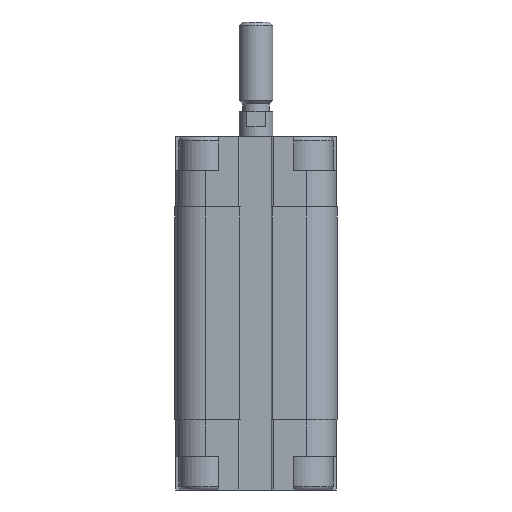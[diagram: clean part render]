
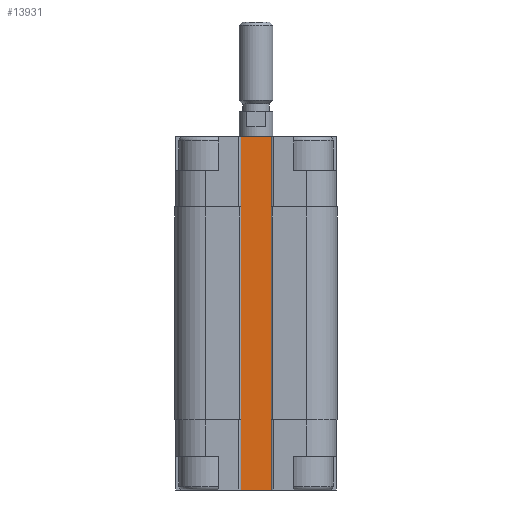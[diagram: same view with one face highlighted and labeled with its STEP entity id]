
A CAD part, front view. The second image highlights one B-rep face of the part: STEP entity #13931.
In plain terms, the highlighted planar face has unit normal (0, -1, 0).
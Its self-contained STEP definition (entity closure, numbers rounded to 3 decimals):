
#79 = VECTOR ( 'NONE', #7638, 1000. ) ;
#274 = CARTESIAN_POINT ( 'NONE',  ( -3.2, -9.5, -50.5 ) ) ;
#410 = EDGE_CURVE ( 'NONE', #4543, #4541, #4754, .T. ) ;
#640 = LINE ( 'NONE', #15147, #1665 ) ;
#839 = CARTESIAN_POINT ( 'NONE',  ( 3., -9.5, -12.5 ) ) ;
#905 = CARTESIAN_POINT ( 'NONE',  ( -3.2, -9.5, -50.5 ) ) ;
#939 = ORIENTED_EDGE ( 'NONE', *, *, #5834, .T. ) ;
#1094 = VERTEX_POINT ( 'NONE', #3147 ) ;
#1239 = CARTESIAN_POINT ( 'NONE',  ( 3., -9.5, -12.5 ) ) ;
#1414 = PLANE ( 'NONE',  #12702 ) ;
#1665 = VECTOR ( 'NONE', #7304, 1000. ) ;
#2220 = DIRECTION ( 'NONE',  ( 0., 0., 1. ) ) ;
#2603 = ORIENTED_EDGE ( 'NONE', *, *, #8197, .F. ) ;
#2644 = VERTEX_POINT ( 'NONE', #13933 ) ;
#2705 = CARTESIAN_POINT ( 'NONE',  ( -3., -9.5, -63. ) ) ;
#2902 = VERTEX_POINT ( 'NONE', #8024 ) ;
#2946 = VECTOR ( 'NONE', #10303, 1000. ) ;
#3038 = VECTOR ( 'NONE', #8574, 1000. ) ;
#3147 = CARTESIAN_POINT ( 'NONE',  ( 3., -9.5, 0. ) ) ;
#3264 = CARTESIAN_POINT ( 'NONE',  ( -3.2, -9.5, -12.5 ) ) ;
#3392 = CARTESIAN_POINT ( 'NONE',  ( -3., -9.5, 0. ) ) ;
#3422 = CARTESIAN_POINT ( 'NONE',  ( -3., -9.5, -63. ) ) ;
#3776 = EDGE_CURVE ( 'NONE', #2644, #11810, #8315, .T. ) ;
#3848 = EDGE_CURVE ( 'NONE', #13267, #1094, #14194, .T. ) ;
#3934 = CARTESIAN_POINT ( 'NONE',  ( 3.2, -9.5, -50.5 ) ) ;
#4285 = VERTEX_POINT ( 'NONE', #9883 ) ;
#4332 = EDGE_CURVE ( 'NONE', #13909, #1094, #5123, .T. ) ;
#4348 = VECTOR ( 'NONE', #14654, 1000. ) ;
#4452 = DIRECTION ( 'NONE',  ( 1., 0., 0. ) ) ;
#4541 = VERTEX_POINT ( 'NONE', #5795 ) ;
#4543 = VERTEX_POINT ( 'NONE', #13806 ) ;
#4603 = VERTEX_POINT ( 'NONE', #3422 ) ;
#4754 = LINE ( 'NONE', #3264, #13719 ) ;
#4913 = LINE ( 'NONE', #10116, #79 ) ;
#5104 = DIRECTION ( 'NONE',  ( 0., 0., 1. ) ) ;
#5123 = LINE ( 'NONE', #839, #9507 ) ;
#5437 = DIRECTION ( 'NONE',  ( -1., 0., 0. ) ) ;
#5795 = CARTESIAN_POINT ( 'NONE',  ( -3., -9.5, -12.5 ) ) ;
#5834 = EDGE_CURVE ( 'NONE', #4603, #4285, #640, .T. ) ;
#6190 = DIRECTION ( 'NONE',  ( 0., 0., 1. ) ) ;
#6479 = VERTEX_POINT ( 'NONE', #3934 ) ;
#6744 = VECTOR ( 'NONE', #6190, 1000. ) ;
#7304 = DIRECTION ( 'NONE',  ( 1., 0., 0. ) ) ;
#7322 = ORIENTED_EDGE ( 'NONE', *, *, #3776, .T. ) ;
#7471 = CARTESIAN_POINT ( 'NONE',  ( 9., -9.5, -12.5 ) ) ;
#7638 = DIRECTION ( 'NONE',  ( 0., 0., 1. ) ) ;
#7747 = EDGE_CURVE ( 'NONE', #2902, #6479, #14672, .T. ) ;
#8024 = CARTESIAN_POINT ( 'NONE',  ( 3., -9.5, -50.5 ) ) ;
#8197 = EDGE_CURVE ( 'NONE', #4603, #11810, #9570, .T. ) ;
#8315 = LINE ( 'NONE', #12467, #17215 ) ;
#8404 = EDGE_CURVE ( 'NONE', #13909, #10022, #16797, .T. ) ;
#8574 = DIRECTION ( 'NONE',  ( 1., 0., 0. ) ) ;
#8733 = ORIENTED_EDGE ( 'NONE', *, *, #7747, .T. ) ;
#9389 = CARTESIAN_POINT ( 'NONE',  ( -3., -9.5, -50.5 ) ) ;
#9426 = LINE ( 'NONE', #12075, #14137 ) ;
#9507 = VECTOR ( 'NONE', #17168, 1000. ) ;
#9512 = CARTESIAN_POINT ( 'NONE',  ( 3.2, -9.5, -12.5 ) ) ;
#9570 = LINE ( 'NONE', #2705, #4348 ) ;
#9883 = CARTESIAN_POINT ( 'NONE',  ( 3., -9.5, -63. ) ) ;
#10022 = VERTEX_POINT ( 'NONE', #9512 ) ;
#10116 = CARTESIAN_POINT ( 'NONE',  ( 3., -9.5, -63. ) ) ;
#10303 = DIRECTION ( 'NONE',  ( 1., 0., 0. ) ) ;
#10336 = CARTESIAN_POINT ( 'NONE',  ( -3., -9.5, -12.5 ) ) ;
#10510 = ORIENTED_EDGE ( 'NONE', *, *, #13841, .T. ) ;
#10644 = FACE_OUTER_BOUND ( 'NONE', #16464, .T. ) ;
#10702 = ORIENTED_EDGE ( 'NONE', *, *, #11065, .T. ) ;
#10817 = CARTESIAN_POINT ( 'NONE',  ( -3., -9.5, -12.5 ) ) ;
#10873 = ORIENTED_EDGE ( 'NONE', *, *, #3848, .F. ) ;
#11065 = EDGE_CURVE ( 'NONE', #6479, #10022, #9426, .T. ) ;
#11737 = VECTOR ( 'NONE', #16165, 1000. ) ;
#11810 = VERTEX_POINT ( 'NONE', #9389 ) ;
#12075 = CARTESIAN_POINT ( 'NONE',  ( 3.2, -9.5, -50.5 ) ) ;
#12467 = CARTESIAN_POINT ( 'NONE',  ( -3.2, -9.5, -50.5 ) ) ;
#12606 = CARTESIAN_POINT ( 'NONE',  ( -3., -9.5, 0. ) ) ;
#12702 = AXIS2_PLACEMENT_3D ( 'NONE', #10817, #14668, #5437 ) ;
#13010 = ORIENTED_EDGE ( 'NONE', *, *, #16809, .F. ) ;
#13267 = VERTEX_POINT ( 'NONE', #12606 ) ;
#13406 = EDGE_CURVE ( 'NONE', #2644, #4543, #17148, .T. ) ;
#13719 = VECTOR ( 'NONE', #14074, 1000. ) ;
#13806 = CARTESIAN_POINT ( 'NONE',  ( -3.2, -9.5, -12.5 ) ) ;
#13841 = EDGE_CURVE ( 'NONE', #4285, #2902, #4913, .T. ) ;
#13909 = VERTEX_POINT ( 'NONE', #1239 ) ;
#13931 = ADVANCED_FACE ( 'NONE', ( #10644 ), #1414, .T. ) ;
#13933 = CARTESIAN_POINT ( 'NONE',  ( -3.2, -9.5, -50.5 ) ) ;
#13969 = ORIENTED_EDGE ( 'NONE', *, *, #410, .F. ) ;
#14074 = DIRECTION ( 'NONE',  ( 1., 0., 0. ) ) ;
#14137 = VECTOR ( 'NONE', #5104, 1000. ) ;
#14194 = LINE ( 'NONE', #3392, #3038 ) ;
#14518 = ORIENTED_EDGE ( 'NONE', *, *, #4332, .T. ) ;
#14654 = DIRECTION ( 'NONE',  ( 0., 0., 1. ) ) ;
#14668 = DIRECTION ( 'NONE',  ( 0., -1., 0. ) ) ;
#14672 = LINE ( 'NONE', #274, #11737 ) ;
#15147 = CARTESIAN_POINT ( 'NONE',  ( -3., -9.5, -63. ) ) ;
#15262 = ORIENTED_EDGE ( 'NONE', *, *, #8404, .F. ) ;
#15335 = LINE ( 'NONE', #10336, #6744 ) ;
#16012 = ORIENTED_EDGE ( 'NONE', *, *, #13406, .F. ) ;
#16165 = DIRECTION ( 'NONE',  ( 1., 0., 0. ) ) ;
#16464 = EDGE_LOOP ( 'NONE', ( #10873, #13010, #13969, #16012, #7322, #2603, #939, #10510, #8733, #10702, #15262, #14518 ) ) ;
#16597 = VECTOR ( 'NONE', #2220, 1000. ) ;
#16797 = LINE ( 'NONE', #7471, #2946 ) ;
#16809 = EDGE_CURVE ( 'NONE', #4541, #13267, #15335, .T. ) ;
#17148 = LINE ( 'NONE', #905, #16597 ) ;
#17168 = DIRECTION ( 'NONE',  ( 0., 0., 1. ) ) ;
#17215 = VECTOR ( 'NONE', #4452, 1000. ) ;
